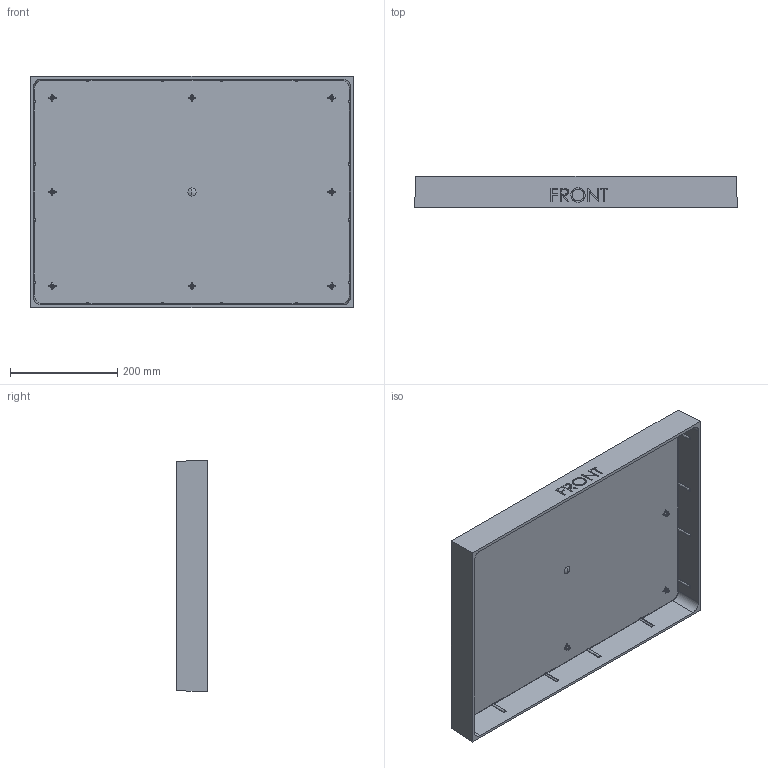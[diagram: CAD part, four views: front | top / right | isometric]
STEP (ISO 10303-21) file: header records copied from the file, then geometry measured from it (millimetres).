
FILE_DESCRIPTION (( 'STEP AP203' ), '1' );
FILE_NAME ('lid inside type 6500.STEP', '2023-03-13T13:15:13', ( '' ), ( '' ), 'SwSTEP 2.0', 'SolidWorks 2022', '' );
FILE_SCHEMA (( 'CONFIG_CONTROL_DESIGN' ));
Products named in the file (1): lid inside type 6500
Bounding box: 601.4 x 57.4 x 431.4 mm (x, y, z)
Volume: 1896788.9 mm3; surface area: 737906.5 mm2
Topology: 2 solids, 2 shells, 949 faces, 2250 edges, 1241 vertices
Faces by surface type: bspline 337, plane 194, cylinder 184, sphere 98, torus 68, cone 68
Entity records: 33235 total; most frequent: CARTESIAN_POINT 14470, ORIENTED_EDGE 4308, DIRECTION 3532, EDGE_CURVE 2154, AXIS2_PLACEMENT_3D 1475, VERTEX_POINT 1241, EDGE_LOOP 981, FACE_OUTER_BOUND 949
